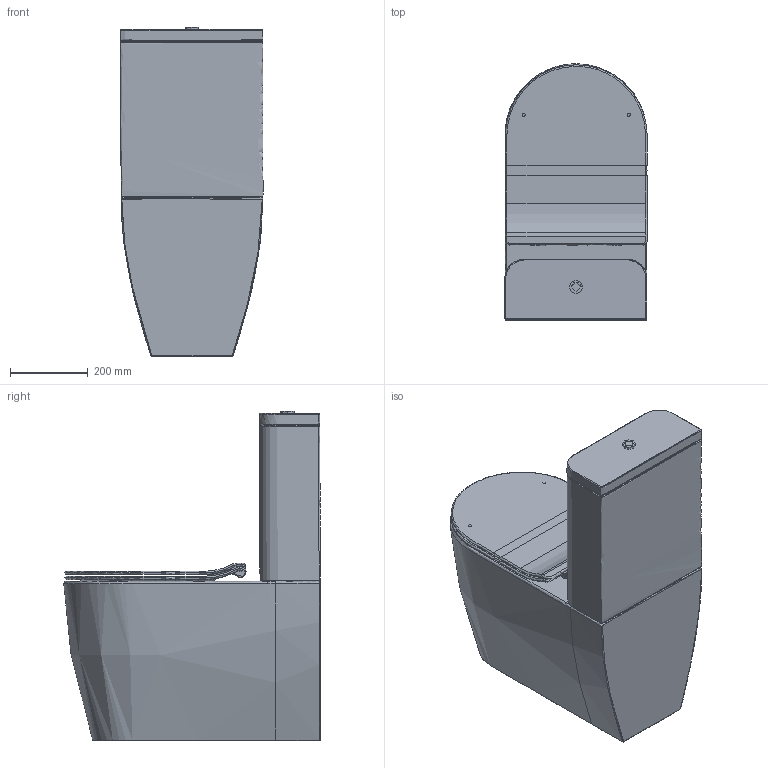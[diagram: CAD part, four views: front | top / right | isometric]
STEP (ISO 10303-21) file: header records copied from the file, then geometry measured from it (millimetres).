
FILE_DESCRIPTION(/* description */ (''),/* implementation_level */ '2;1');
FILE_NAME(/* name */ 'MOONWC~1',/* time_stamp */ '2017-11-27T12:00:51+01:00',/* author */ (''),/* organization */ (''),/* preprocessor_version */ 'ST-DEVELOPER v15',/* originating_system */ '',/* authorisation */ '');
FILE_SCHEMA (('AUTOMOTIVE_DESIGN'));
Length unit declared in the file: millimetre
Products named in the file (1): Document
Bounding box: 366.21 x 660 x 847.34 mm (x, y, z)
Volume: 1720764.1 mm3; surface area: 2654563.3 mm2
Topology: 6 solids, 16 shells, 615 faces, 1537 edges, 904 vertices
Faces by surface type: bspline 511, plane 104
Entity records: 41391 total; most frequent: CARTESIAN_POINT 33032, ORIENTED_EDGE 2892, EDGE_CURVE 1547, VERTEX_POINT 905, B_SPLINE_CURVE_WITH_KNOTS 666, EDGE_LOOP 633, ADVANCED_FACE 606, FACE_OUTER_BOUND 606
